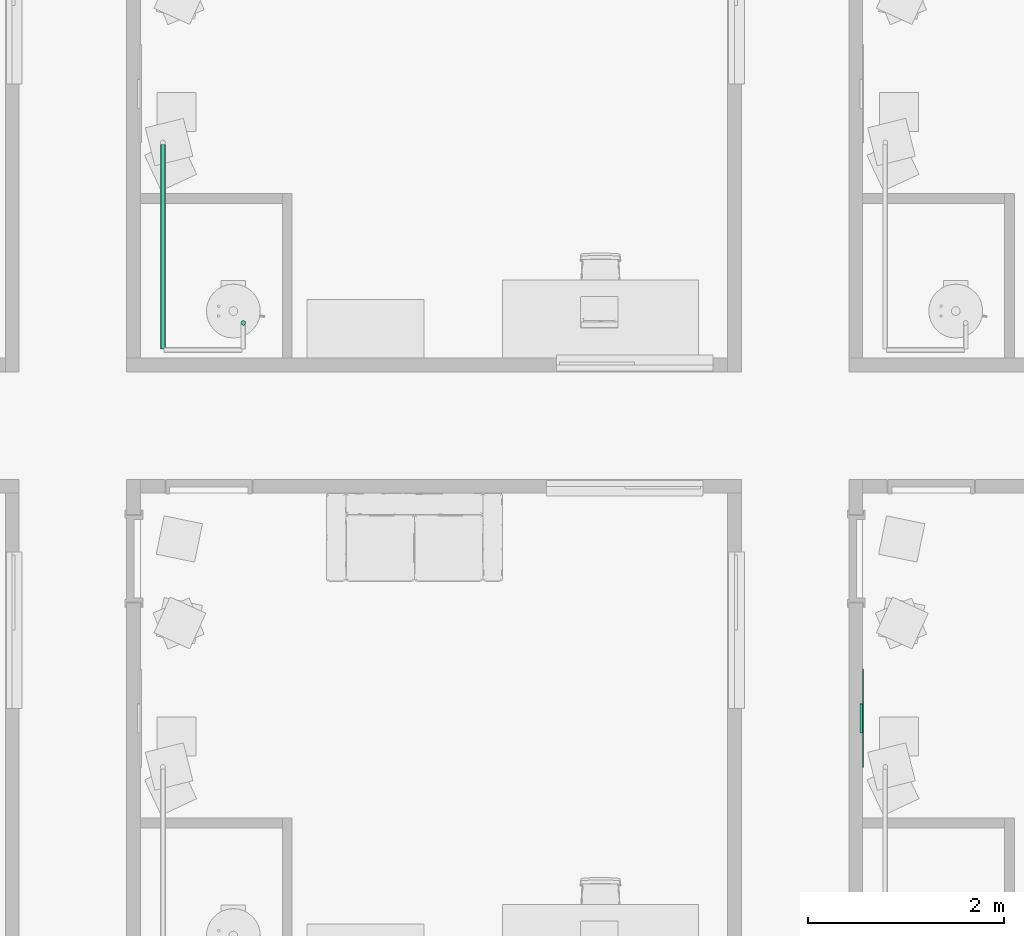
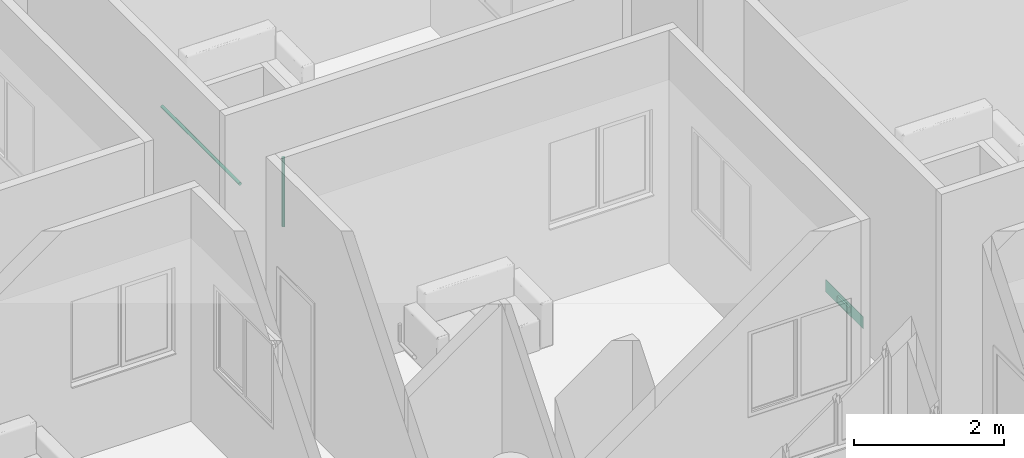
# One storey, part 37 of 69: 2 pipe segments, 1 air terminal.
"""IFC4 building model written with IfcOpenShell, lengths in centimetres."""

from ifc_helpers import new_model, entity, si_unit, converted_unit, derived_unit, direction, frame, origin, place, context, subcontext, project, spatial, arc, indexed_curve, outline, extrude, source, transform, mapped, material, constituent, constituent_set, type_object, type_shapes, element, save


model = new_model("IFC4")

# Units and contexts
model_context = context("Model", 3, precision=0.001, world=origin(), true_north=direction((6.123233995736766e-17, 1.0)))
body_context = subcontext(model_context, "Body", "Model", "MODEL_VIEW")
ifc_project = project(units=[si_unit("LENGTHUNIT", "METRE", prefix="CENTI"), si_unit("AREAUNIT", "SQUARE_METRE"), si_unit("VOLUMEUNIT", "CUBIC_METRE"), derived_unit("THERMALTRANSMITTANCEUNIT", [(si_unit("MASSUNIT", "GRAM", prefix="KILO"), 1), (si_unit("THERMODYNAMICTEMPERATUREUNIT", "KELVIN"), -1), (si_unit("TIMEUNIT", "SECOND"), -3)]), converted_unit("PLANEANGLEUNIT", "DEGREE", entity("IfcPlaneAngleMeasure", 0.017453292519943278), si_unit("PLANEANGLEUNIT", "RADIAN"), dimensions=[0, 0, 0, 0, 0, 0, 0]), derived_unit("MASSDENSITYUNIT", [(si_unit("MASSUNIT", "GRAM", prefix="KILO"), 1), (si_unit("LENGTHUNIT", "METRE"), -3)]), derived_unit("VAPORPERMEABILITYUNIT", [(si_unit("LENGTHUNIT", "METRE"), -1), (si_unit("TIMEUNIT", "SECOND"), 1)]), derived_unit("USERDEFINED", [(si_unit("MASSUNIT", "GRAM", prefix="KILO"), 1), (si_unit("TIMEUNIT", "SECOND"), -3), (si_unit("LENGTHUNIT", "METRE"), 3), (si_unit("ELECTRICCURRENTUNIT", "AMPERE"), -2)]), derived_unit("SPECIFICHEATCAPACITYUNIT", [(si_unit("THERMODYNAMICTEMPERATUREUNIT", "KELVIN"), -1), (si_unit("LENGTHUNIT", "METRE"), 2), (si_unit("TIMEUNIT", "SECOND"), -2)]), derived_unit("THERMALCONDUCTANCEUNIT", [(si_unit("MASSUNIT", "GRAM", prefix="KILO"), 1), (si_unit("THERMODYNAMICTEMPERATUREUNIT", "KELVIN"), -1), (si_unit("TIMEUNIT", "SECOND"), -3), (si_unit("LENGTHUNIT", "METRE"), 1)]), si_unit("PRESSUREUNIT", "PASCAL"), derived_unit("MODULUSOFELASTICITYUNIT", [(si_unit("MASSUNIT", "GRAM", prefix="KILO"), 1), (si_unit("LENGTHUNIT", "METRE"), -1), (si_unit("TIMEUNIT", "SECOND"), -2)]), derived_unit("THERMALEXPANSIONCOEFFICIENTUNIT", [(si_unit("THERMODYNAMICTEMPERATUREUNIT", "KELVIN"), -1)])], contexts=[model_context])

# Site, building, storey, space
site_placement = place(None, origin())
site = spatial("IfcSite", under=ifc_project, at=site_placement, Name="Default", CompositionType="ELEMENT")
building_placement = place(site_placement, origin())
building = spatial("IfcBuilding", under=site, at=building_placement, Name="IDS Escape Game Building", CompositionType="ELEMENT")
storey_placement = place(building_placement, origin())
storey = spatial("IfcBuildingStorey", under=building, at=storey_placement, Name="00_Ground Floor", CompositionType="ELEMENT", Elevation=0.0)
space_placement = place(storey_placement, origin())
space = spatial("IfcSpace", under=storey, at=space_placement, Name="28", CompositionType="ELEMENT", PredefinedType="NOTDEFINED")

# Air terminal
ifc_material_1 = material(Name="TB_LVC_referentievlak_00_gen_BERSnl", Category="BE Default")
ifc_constituent_1 = constituent(ifc_material_1, Name="TB_LVC_referentievlak_00_gen_BERSnl", Category="BE Default", fraction=0.00014157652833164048)
ifc_material_2 = material(Name="ARC_FME.h2_staal_00_gen_BERSnl", Category="h - metaal")
ifc_constituent_2 = constituent(ifc_material_2, Name="ARC_FME.h2_staal_00_gen_BERSnl", Category="h - metaal", fraction=0.9998584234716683)
ifc_constituent_set_1 = constituent_set(constituents=[ifc_constituent_1, ifc_constituent_2])
ifc_constituent_3 = constituent(ifc_material_1, Name="BE Referentievlak", Category="BE Default", fraction=0.00014157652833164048)
ifc_constituent_4 = constituent(ifc_material_2, Name="Terminals", Category="h - metaal", fraction=0.9998584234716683)
ifc_constituent_set_2 = constituent_set(constituents=[ifc_constituent_3, ifc_constituent_4])
air_terminal_type = type_object("IfcAirTerminalType", Name="TB_57_AIR_FB_aanzuigrooster - 1 rechthoekige aansluiting - calculated flow_gen_BERSnl:Air Terminal - Exhaust", PredefinedType="GRILLE", material=ifc_constituent_set_2)
shared_shape = source(origin(), body_context, "Body", "SweptSolid", [
    extrude(outline(indexed_curve([(-0.5, -2.0290176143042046e-15), (6.8507733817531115e-16, -0.5000000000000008), (0.5, 2.0290176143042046e-15), (-5.361679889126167e-16, 0.49999999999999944)], segments=[arc(1, 2, 3), arc(3, 4, 1)], self_intersect=False)), frame((0.0, 0.0, 0.0), z_axis=(1.7453292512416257e-05, 0.0, 1.0), x_axis=(0.0, 1.0, 0.0)), (0.0, 0.0, 1.0), 0.09999999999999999),
    extrude(outline(indexed_curve([(-14.900000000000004, -4.9), (14.900000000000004, -4.9), (14.900000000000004, 4.9), (-14.900000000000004, 4.9), (-14.900000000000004, -4.9)], self_intersect=False)), frame((-4.886921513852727e-05, 0.0, -2.7999999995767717)), (0.0, 0.0, 1.0), 2.7999999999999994),
    extrude(outline(indexed_curve([(-50.0, -10.0), (50.0, -10.0), (50.0, 10.0), (-50.0, 10.0), (-50.0, -10.0)], self_intersect=False)), frame((0.0, 0.0, 0.0), z_axis=(0.0, 0.0, 1.0), x_axis=(-1.0, 0.0, 0.0)), (0.0, 0.0, 1.0), 0.6999999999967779),
])
type_shapes(air_terminal_type, [shared_shape])
air_terminal_placement = place(space_placement, frame((4435.0, 2197.0, 24.0), z_axis=(1.0, 0.0, 0.0), x_axis=(0.0, 1.0, 0.0)))
element("IfcAirTerminal", 1, at=air_terminal_placement, inside=space, type_object=air_terminal_type, material=ifc_constituent_set_1, Name="TB_57_AIR_FB_aanzuigrooster - 1 rechthoekige aansluiting - calculated flow_gen_BERSnl:Air Terminal - Exhaust", ObjectType="TB_57_AIR_FB_aanzuigrooster - 1 rechthoekige aansluiting - calculated flow_gen_BERSnl:Air Terminal - Exhaust", PredefinedType="GRILLE", context=body_context, shape_type="MappedRepresentation", body=[
    mapped(shared_shape, transform((0.0, 0.0, 0.0), scale=1.0)),
])

# Pipe segments
pipe_segment_type = type_object("IfcPipeSegmentType", Name="Pipe Types:Piping Aluminum", PredefinedType="NOTDEFINED")
pipe_segment_1_placement = place(storey_placement, origin())
element("IfcPipeSegment", 2, at=pipe_segment_1_placement, inside=storey, type_object=pipe_segment_type, Name="Pipe Types:Piping Aluminum", ObjectType="Pipe Types:Piping Aluminum", PredefinedType="NOTDEFINED", context=body_context, shape_type="SweptSolid", body=[
    extrude(outline(indexed_curve([(2.412999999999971, -4.331468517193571e-13), (1.7062486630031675, 1.7062486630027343), (0.0, 2.412999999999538), (-1.7062486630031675, 1.7062486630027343), (-2.412999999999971, -4.331468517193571e-13), (-1.7062486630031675, -1.7062486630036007), (0.0, -2.4130000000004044), (1.7062486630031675, -1.7062486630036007)], segments=[arc(1, 2, 3), arc(3, 4, 5), arc(5, 6, 7), arc(7, 8, 1)], self_intersect=False)), frame((3802.150000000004, 2600.900000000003, 128.0), z_axis=(0.0, 0.0, 1.0), x_axis=(-1.0, 0.0, 0.0)), (0.0, 0.0, 1.0), 112.90000000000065),
])
pipe_segment_2_placement = place(storey_placement, origin())
element("IfcPipeSegment", 3, at=pipe_segment_2_placement, inside=storey, type_object=pipe_segment_type, Name="Pipe Types:Piping Aluminum", ObjectType="Pipe Types:Piping Aluminum", PredefinedType="NOTDEFINED", context=body_context, shape_type="SweptSolid", body=[
    extrude(outline(indexed_curve([(2.412999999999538, 0.0), (1.7062486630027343, 1.7062486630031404), (-4.331468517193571e-13, 2.412999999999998), (-1.7062486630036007, 1.7062486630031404), (-2.4130000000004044, 2.7071678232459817e-14), (-1.7062486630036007, -1.7062486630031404), (-4.331468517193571e-13, -2.412999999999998), (1.7062486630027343, -1.7062486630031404)], segments=[arc(1, 2, 3), arc(3, 4, 5), arc(5, 6, 7), arc(7, 8, 1)], self_intersect=False)), frame((3720.0467168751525, 2574.364827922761, 242.0), z_axis=(0.0, 1.0, 0.0), x_axis=(1.0, 0.0, 0.0)), (0.0, 0.0, 1.0), 208.80000000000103),
])

save(model, "model.ifc")
